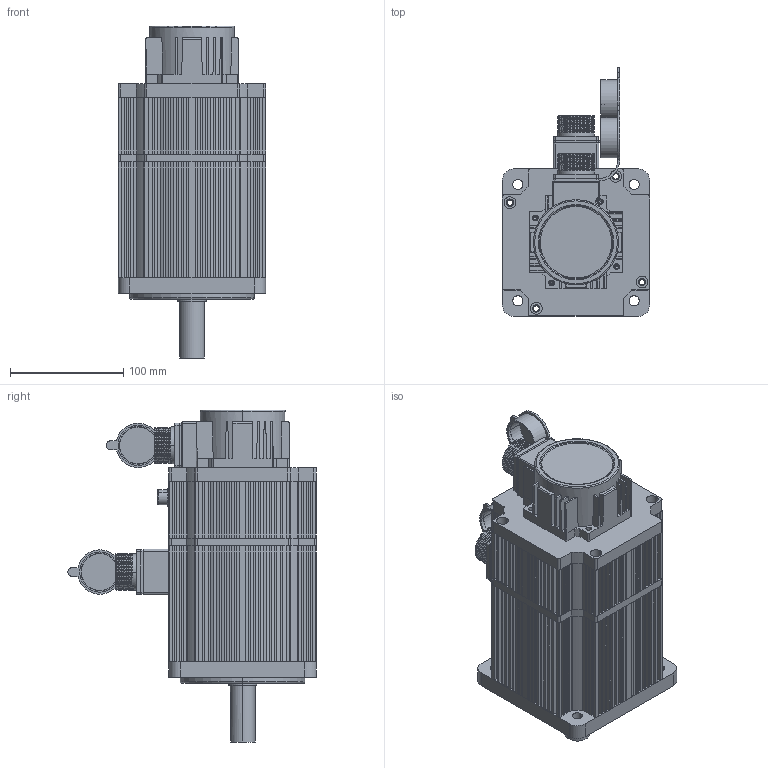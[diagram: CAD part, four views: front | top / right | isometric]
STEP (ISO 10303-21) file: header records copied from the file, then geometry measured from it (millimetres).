
FILE_DESCRIPTION (( 'STEP AP203' ), '1' );
FILE_NAME ('130 6N.M抱闸.STEP', '2018-06-25T01:22:06', ( '微软用户' ), ( '微软中国' ), 'SwSTEP 2.0', 'SolidWorks 2016', '' );
FILE_SCHEMA (( 'CONFIG_CONTROL_DESIGN' ));
Length unit declared in the file: millimetre
Products named in the file (15): 15郋瑤脣釱; 130 6N.M惕掅粣; 130惕掅綴裔; 130惕掅儂褲; 130儂褲; 惕掅脣芛; 4郋瑤脣; 130 6N.M惕掅; 瑤脣價釱; 瑤脣々菜; 130ヶ裔; 130-4郋瑤脣釱; 130綴裔; 15郋瑤脣; 晤鎢ん欶
Assembly tree (15 placements, depth 3):
  130 6N.M惕掅
    130ヶ裔
    130綴裔
    晤鎢ん欶
    130 6N.M惕掅粣
    130惕掅綴裔
    130儂褲
    130-4郋瑤脣釱
      4郋瑤脣
      瑤脣價釱
      瑤脣々菜
    15郋瑤脣釱
      15郋瑤脣
      瑤脣々菜
    130惕掅儂褲
    惕掅脣芛
Bounding box: 130 x 219.29 x 293 mm (x, y, z)
Volume: 1078002.3 mm3; surface area: 510746.7 mm2
Topology: 14 solids, 14 shells, 1863 faces, 5061 edges, 3284 vertices
Faces by surface type: plane 998, cylinder 737, torus 49, sphere 36, cone 35, bspline 8
Entity records: 61985 total; most frequent: CARTESIAN_POINT 14097, ORIENTED_EDGE 9710, DIRECTION 9667, EDGE_CURVE 4855, AXIS2_PLACEMENT_3D 3261, VERTEX_POINT 3184, VECTOR 3145, LINE 3145
